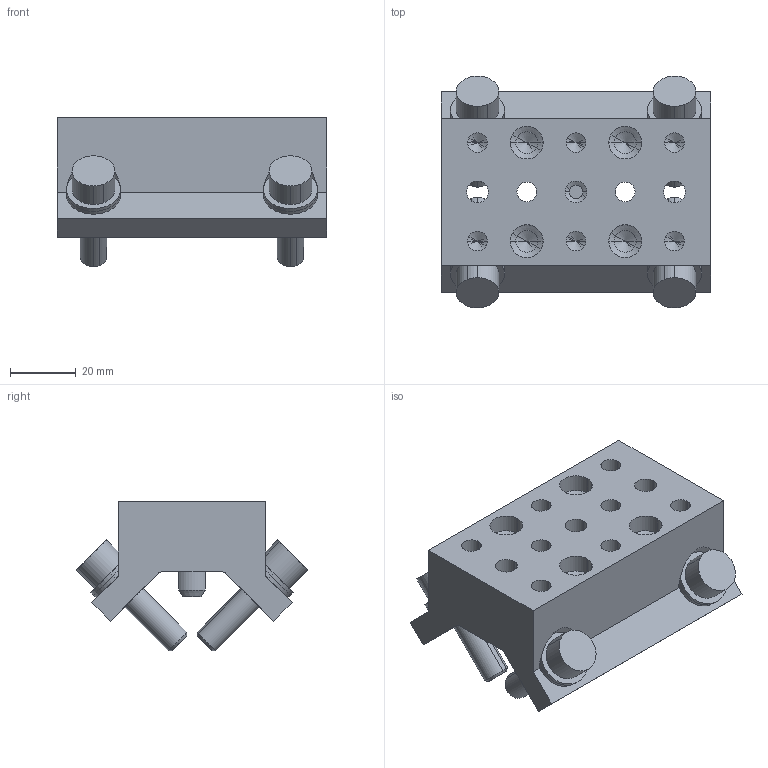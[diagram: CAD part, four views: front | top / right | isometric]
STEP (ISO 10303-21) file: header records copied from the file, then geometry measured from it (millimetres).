
FILE_DESCRIPTION(('STEP AP214'),'1');
FILE_NAME('EGT244_1725999_FLACHANBINDUNG_SW50_KURZ.CATPart.stp','2015-09-14T13:15:21',('3D-Tool'),(' '),'Spatial InterOp 3D',' ',' ');
FILE_SCHEMA(('automotive_design'));
Length unit declared in the file: millimetre
Products named in the file (14): EGT244_1725999_FLACHANBINDUNG_SW50_KURZ|PartBody|Bohrbearbeitung; EGT244_1725999_FLACHANBINDUNG_SW50_KURZ|EGT212_ZENTRIERSTIFT|Solid.26; EGT244_1725999_FLACHANBINDUNG_SW50_KURZ|SCHEIBE_DNL8F_FA_NORDLOCK.1|Solid.35; EGT244_1725999_FLACHANBINDUNG_SW50_KURZ|SCHEIBE_DNL8F_FA_NORDLOCK.2|Solid.36; EGT244_1725999_FLACHANBINDUNG_SW50_KURZ|SCHEIBE_DNL8F_FA_NORDLOCK.3|Solid.37; EGT244_1725999_FLACHANBINDUNG_SW50_KURZ|SCHEIBE_DNL8F_FA_NORDLOCK.4|Solid.38; EGT244_1725999_FLACHANBINDUNG_SW50_KURZ|SCHEIBE_DNL8F_FA_NORDLOCK.5|Solid.39; EGT244_1725999_FLACHANBINDUNG_SW50_KURZ|SCHEIBE_DNL8F_FA_NORDLOCK.6|Solid.40; EGT244_1725999_FLACHANBINDUNG_SW50_KURZ|SCHEIBE_DNL8F_FA_NORDLOCK.7|Solid.41; EGT244_1725999_FLACHANBINDUNG_SW50_KURZ|SCHEIBE_DNL8F_FA_NORDLOCK.8|Solid.42; EGT244_1725999_FLACHANBINDUNG_SW50_KURZ|ZYLINDERSCHRAUBE_DIN_EN_4762_M8X30.1|Solid.43; EGT244_1725999_FLACHANBINDUNG_SW50_KURZ|ZYLINDERSCHRAUBE_DIN_EN_4762_M8X30.2|Solid.44; EGT244_1725999_FLACHANBINDUNG_SW50_KURZ|ZYLINDERSCHRAUBE_DIN_EN_4762_M8X30.3|Solid.45; EGT244_1725999_FLACHANBINDUNG_SW50_KURZ|ZYLINDERSCHRAUBE_DIN_EN_4762_M8X30.4|Solid.46
Bounding box: 82 x 70.57 x 45.47 mm (x, y, z)
Volume: 101165 mm3; surface area: 33401.8 mm2
Topology: 14 solids, 14 shells, 354 faces, 818 edges, 468 vertices
Faces by surface type: cylinder 178, cone 94, plane 50, torus 32
Entity records: 13420 total; most frequent: CARTESIAN_POINT 2130, DIRECTION 1918, ORIENTED_EDGE 1556, AXIS2_PLACEMENT_3D 802, EDGE_CURVE 778, VERTEX_POINT 468, CIRCLE 434, EDGE_LOOP 404
